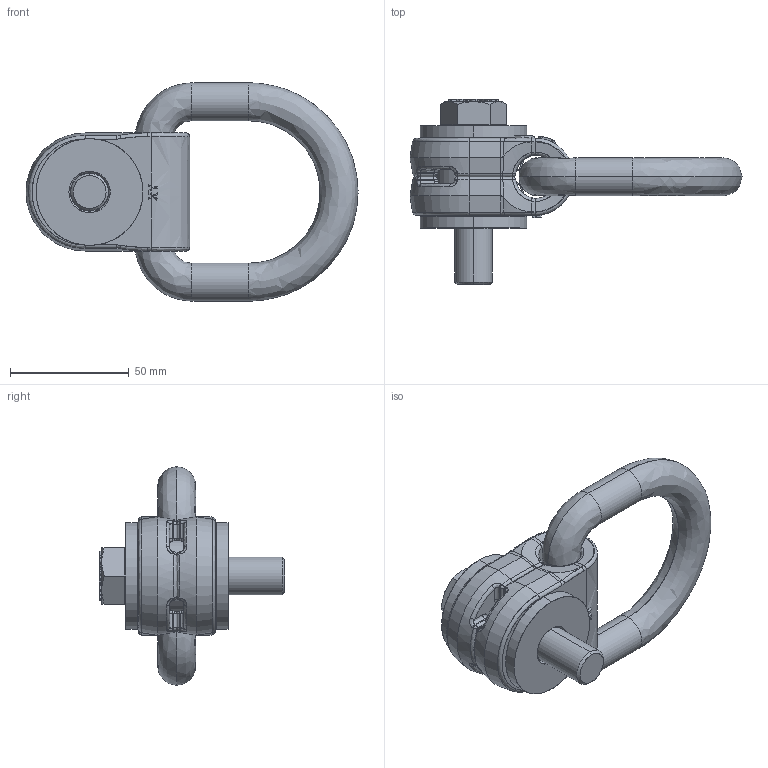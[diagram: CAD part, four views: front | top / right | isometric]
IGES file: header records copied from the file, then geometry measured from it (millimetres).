
Start section: SolidWorks IGES file using analytic representation for surfaces
Global section: file name: C:\Users\Elias.oliveira\Desktop\3D LBG UNC\42049327\LBG 58 11UNC 15t.IGS; native system: SolidWorks 2023; preprocessor: SolidWorks 2023; author: elias.oliveira; date: 240620.151723; units: millimetre
Bounding box: 139.97 x 78.01 x 92 mm (x, y, z)
Surface area: 49881.1 mm2 (no closed solid volume)
Topology: 0 solids, 0 shells, 814 faces, 8773 edges, 8756 vertices
Faces by surface type: bspline 632, revolution 182
